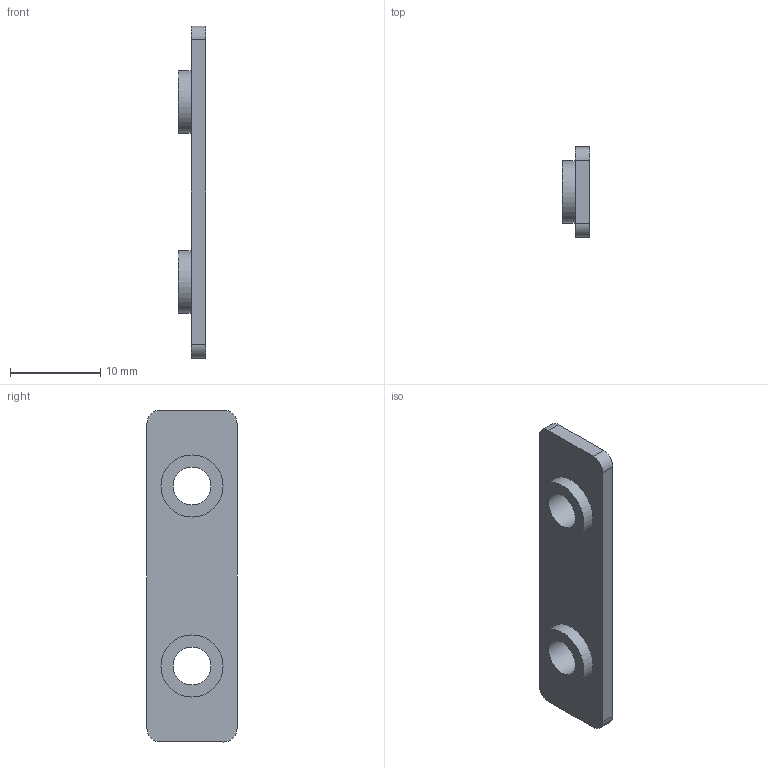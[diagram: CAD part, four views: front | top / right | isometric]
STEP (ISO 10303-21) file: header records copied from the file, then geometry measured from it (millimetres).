
FILE_DESCRIPTION(/* description */ ('STEP AP242 Edition 2','CAx-IF Rec.Pracs.---Representation and Presentation of Product Manufacturing Information (PMI)---4.0---2014-10-13','CAx-IF Rec.Pracs.---3D Tessellated Geometry---0.4---2014-09-14','2;1','CAx-IF Rec.Pracs.---User Defined Attributes---1.5---2016-08-15'),/* implementation_level */ '2;1');
FILE_NAME(/* name */ 'Final Build - M5 Double T-nut',/* time_stamp */ '2026-08-31T23:26:14Z',/* author */ (''),/* organization */ (''),/* preprocessor_version */ 'ST-DEVELOPER v20',/* originating_system */ 'ONSHAPE BY PTC INC, 1.220',/* authorisation */ ' ');
FILE_SCHEMA (('AP242_MANAGED_MODEL_BASED_3D_ENGINEERING_MIM_LF { 1 0 10303 442 3 1 4 }'));
Length unit declared in the file: metre
Products named in the file (1): M5 Double T-nut
Bounding box: 3 x 10 x 36.88 mm (x, y, z)
Volume: 608.6 mm3; surface area: 964.1 mm2
Topology: 1 solids, 1 shells, 16 faces, 36 edges, 24 vertices
Faces by surface type: plane 8, cylinder 8
Full cylindrical faces by diameter (mm): 4.2 x2, 6.9 x2
Entity records: 466 total; most frequent: DIRECTION 82, CARTESIAN_POINT 73, ORIENTED_EDGE 64, AXIS2_PLACEMENT_3D 33, EDGE_CURVE 32, EDGE_LOOP 26, FACE_BOUND 26, VERTEX_POINT 24
